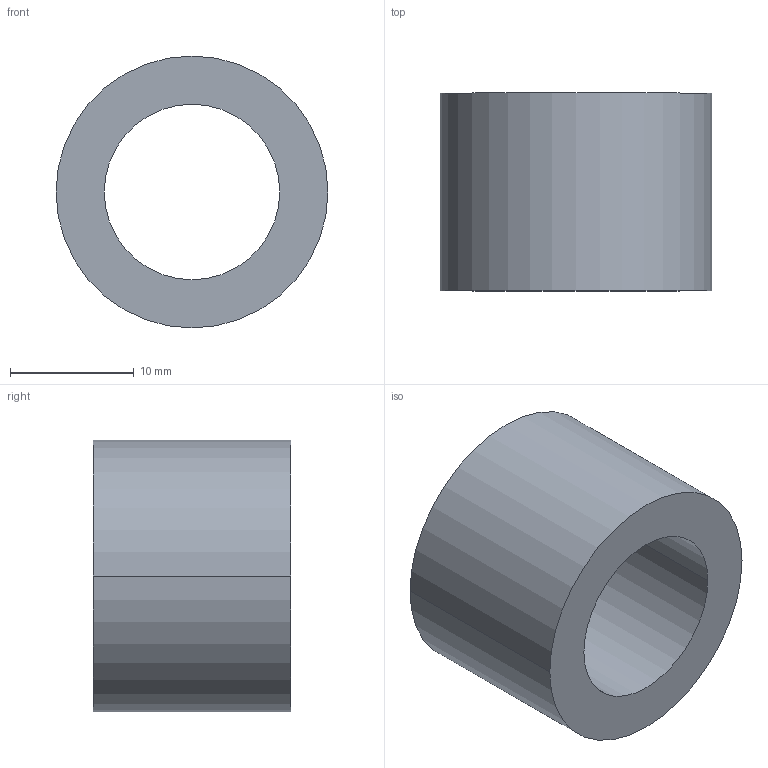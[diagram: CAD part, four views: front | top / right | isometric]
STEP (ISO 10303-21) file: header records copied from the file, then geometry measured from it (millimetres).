
FILE_DESCRIPTION (( 'STEP AP203' ), '1' );
FILE_NAME ('30800.WPP22F14.2.step', '2019-01-23T22:43:15', ( '' ), ( '' ), 'SwSTEP 2.0', 'SolidWorks 2017', '' );
FILE_SCHEMA (( 'CONFIG_CONTROL_DESIGN' ));
Length unit declared in the file: millimetre
Products named in the file (1): 30800.WPP22F14.2
Bounding box: 22 x 16 x 22 mm (x, y, z)
Volume: 3507.5 mm3; surface area: 2226.6 mm2
Topology: 1 solids, 1 shells, 8 faces, 16 edges, 10 vertices
Faces by surface type: cylinder 4, torus 2, plane 2
Entity records: 297 total; most frequent: DIRECTION 46, CARTESIAN_POINT 35, ORIENTED_EDGE 32, AXIS2_PLACEMENT_3D 21, EDGE_CURVE 16, CIRCLE 12, EDGE_LOOP 10, VERTEX_POINT 10
